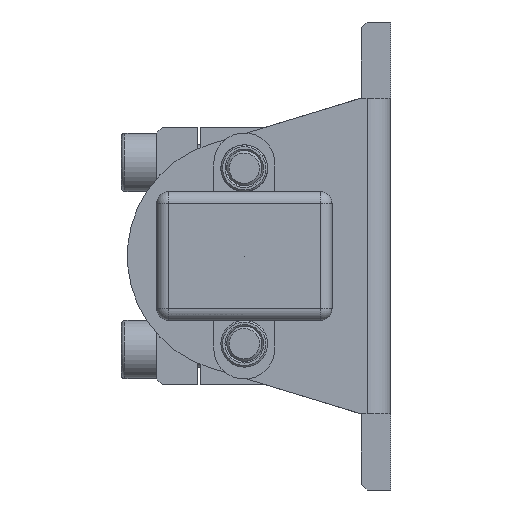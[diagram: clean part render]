
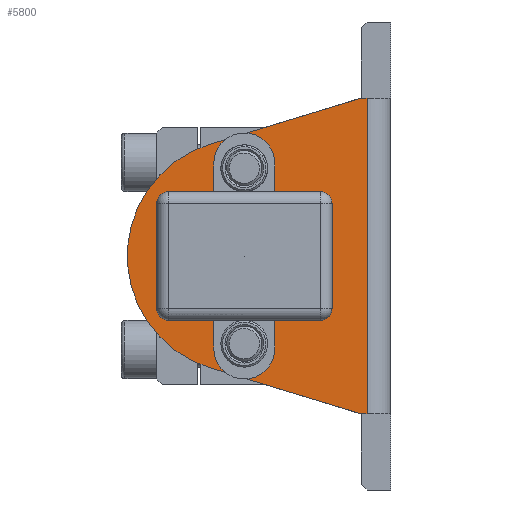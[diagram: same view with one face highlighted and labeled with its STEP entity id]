
A CAD part, left-side view. The second image highlights one B-rep face of the part: STEP entity #5800.
In plain terms, the highlighted planar face has unit normal (-1, 0, 0).
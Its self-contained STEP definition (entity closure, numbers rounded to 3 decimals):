
#354=PLANE('',#6685);
#493=FACE_BOUND('',#1058,.T.);
#494=FACE_BOUND('',#1059,.T.);
#495=FACE_BOUND('',#1060,.T.);
#690=FACE_OUTER_BOUND('',#1057,.T.);
#1057=EDGE_LOOP('',(#4373,#4374,#4375,#4376,#4377,#4378));
#1058=EDGE_LOOP('',(#4379));
#1059=EDGE_LOOP('',(#4380));
#1060=EDGE_LOOP('',(#4381));
#1476=LINE('',#9703,#1903);
#1481=LINE('',#9719,#1908);
#1483=LINE('',#9723,#1910);
#1484=LINE('',#9725,#1911);
#1485=LINE('',#9726,#1912);
#1903=VECTOR('',#7705,10.);
#1908=VECTOR('',#7720,10.);
#1910=VECTOR('',#7724,10.);
#1911=VECTOR('',#7725,10.);
#1912=VECTOR('',#7726,10.);
#2299=CIRCLE('',#6664,3.);
#2301=CIRCLE('',#6667,3.);
#2307=CIRCLE('',#6676,11.);
#2310=CIRCLE('',#6682,20.);
#2670=VERTEX_POINT('',#9667);
#2672=VERTEX_POINT('',#9673);
#2678=VERTEX_POINT('',#9691);
#2682=VERTEX_POINT('',#9700);
#2683=VERTEX_POINT('',#9702);
#2686=VERTEX_POINT('',#9710);
#2689=VERTEX_POINT('',#9718);
#2690=VERTEX_POINT('',#9722);
#2691=VERTEX_POINT('',#9724);
#3287=EDGE_CURVE('',#2670,#2670,#2299,.T.);
#3290=EDGE_CURVE('',#2672,#2672,#2301,.T.);
#3299=EDGE_CURVE('',#2678,#2678,#2307,.T.);
#3304=EDGE_CURVE('',#2683,#2682,#1476,.T.);
#3308=EDGE_CURVE('',#2686,#2683,#2310,.T.);
#3312=EDGE_CURVE('',#2689,#2686,#1481,.T.);
#3314=EDGE_CURVE('',#2690,#2682,#1483,.T.);
#3315=EDGE_CURVE('',#2691,#2690,#1484,.T.);
#3316=EDGE_CURVE('',#2689,#2691,#1485,.T.);
#4373=ORIENTED_EDGE('',*,*,#3312,.T.);
#4374=ORIENTED_EDGE('',*,*,#3308,.T.);
#4375=ORIENTED_EDGE('',*,*,#3304,.T.);
#4376=ORIENTED_EDGE('',*,*,#3314,.F.);
#4377=ORIENTED_EDGE('',*,*,#3315,.F.);
#4378=ORIENTED_EDGE('',*,*,#3316,.F.);
#4379=ORIENTED_EDGE('',*,*,#3287,.T.);
#4380=ORIENTED_EDGE('',*,*,#3290,.T.);
#4381=ORIENTED_EDGE('',*,*,#3299,.T.);
#5800=ADVANCED_FACE('',(#690,#493,#494,#495),#354,.T.);
#6664=AXIS2_PLACEMENT_3D('',#9668,#7667,#7668);
#6667=AXIS2_PLACEMENT_3D('',#9674,#7674,#7675);
#6676=AXIS2_PLACEMENT_3D('',#9692,#7695,#7696);
#6682=AXIS2_PLACEMENT_3D('',#9711,#7712,#7713);
#6685=AXIS2_PLACEMENT_3D('',#9721,#7722,#7723);
#7667=DIRECTION('center_axis',(1.,0.,0.));
#7668=DIRECTION('ref_axis',(0.,0.,1.));
#7674=DIRECTION('center_axis',(1.,0.,0.));
#7675=DIRECTION('ref_axis',(0.,0.,1.));
#7695=DIRECTION('center_axis',(1.,0.,0.));
#7696=DIRECTION('ref_axis',(0.,0.,1.));
#7705=DIRECTION('',(0.,-0.957,-0.291));
#7712=DIRECTION('center_axis',(-1.,0.,0.));
#7713=DIRECTION('ref_axis',(0.,-0.291,0.957));
#7720=DIRECTION('',(0.,0.957,-0.291));
#7722=DIRECTION('center_axis',(-1.,0.,0.));
#7723=DIRECTION('ref_axis',(0.,-1.,0.));
#7724=DIRECTION('',(0.,1.,0.));
#7725=DIRECTION('',(0.,0.,-1.));
#7726=DIRECTION('',(0.,-1.,0.));
#9667=CARTESIAN_POINT('',(0.,0.,12.));
#9668=CARTESIAN_POINT('Origin',(0.,0.,15.));
#9673=CARTESIAN_POINT('',(0.,0.,-18.));
#9674=CARTESIAN_POINT('Origin',(0.,0.,-15.));
#9691=CARTESIAN_POINT('',(0.,0.,-11.));
#9692=CARTESIAN_POINT('Origin',(0.,0.,0.));
#9700=CARTESIAN_POINT('',(0.,-20.,-27.));
#9702=CARTESIAN_POINT('',(0.,5.828,-19.132));
#9703=CARTESIAN_POINT('',(0.,17.267,-15.647));
#9710=CARTESIAN_POINT('',(0.,5.828,19.132));
#9711=CARTESIAN_POINT('Origin',(0.,0.,0.));
#9718=CARTESIAN_POINT('',(0.,-20.,27.));
#9719=CARTESIAN_POINT('',(0.,4.353,19.581));
#9721=CARTESIAN_POINT('Origin',(0.,25.,0.));
#9722=CARTESIAN_POINT('',(0.,-21.,-27.));
#9723=CARTESIAN_POINT('',(0.,25.,-27.));
#9724=CARTESIAN_POINT('',(0.,-21.,27.));
#9725=CARTESIAN_POINT('',(0.,-21.,0.));
#9726=CARTESIAN_POINT('',(0.,25.,27.));
